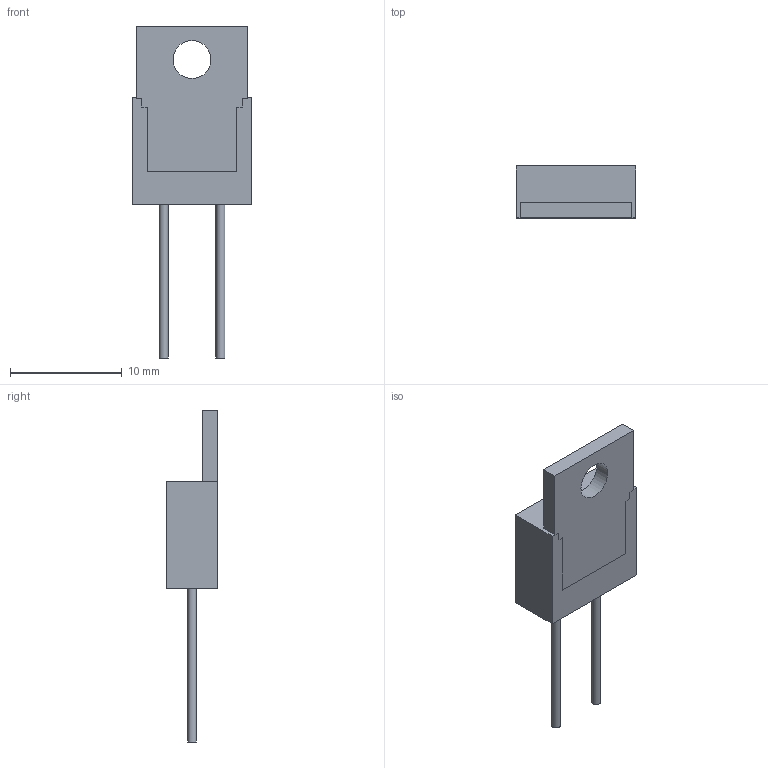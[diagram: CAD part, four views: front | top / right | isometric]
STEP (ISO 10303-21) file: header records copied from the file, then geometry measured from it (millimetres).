
FILE_DESCRIPTION(('STEP AP203'), '1');
FILE_NAME('ﾐ1-150ﾀﾁ', '', ('UNSPECIFIED'), ('UNSPECIFIED'), 'ASCON STEP Converter 1.6', 'ASCON Math Kernel', '');
FILE_SCHEMA(('CONFIG_CONTROL_DESIGN'));
Length unit declared in the file: millimetre
Bounding box: 10.7 x 4.65 x 29.71 mm (x, y, z)
Volume: 568.4 mm3; surface area: 778.2 mm2
Topology: 2 solids, 2 shells, 37 faces, 93 edges, 62 vertices
Faces by surface type: plane 34, cylinder 3
Full cylindrical faces by diameter (mm): 0.8 x2, 3.4 x1
Entity records: 1428 total; most frequent: CARTESIAN_POINT 190, ORIENTED_EDGE 180, DIRECTION 172, EDGE_CURVE 90, LINE 84, VECTOR 84, VERTEX_POINT 62, AXIS2_PLACEMENT_3D 44
